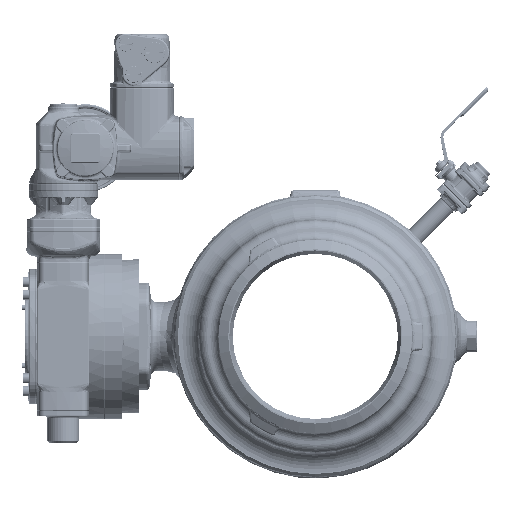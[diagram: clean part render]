
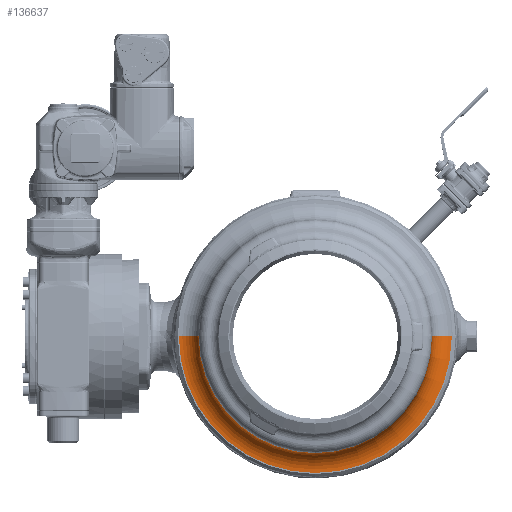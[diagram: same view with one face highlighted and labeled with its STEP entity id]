
A CAD part, left-side view. The second image highlights one B-rep face of the part: STEP entity #136637.
In plain terms, the highlighted toroidal (fillet/blend) face has major radius 248 mm and minor radius 36 mm.
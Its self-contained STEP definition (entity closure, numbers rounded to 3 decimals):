
#31918=CARTESIAN_POINT('',(-135.5,0.,0.));
#31919=DIRECTION('',(1.,0.,0.));
#31920=DIRECTION('',(0.,0.,-1.));
#31921=AXIS2_PLACEMENT_3D('',#31918,#31919,#31920);
#31928=CARTESIAN_POINT('',(-171.5,0.,-248.));
#31929=DIRECTION('',(0.,1.,0.));
#31930=DIRECTION('',(0.,0.,1.));
#31931=AXIS2_PLACEMENT_3D('',#31928,#31929,#31930);
#31938=CARTESIAN_POINT('',(-171.5,0.,0.));
#31939=DIRECTION('',(1.,0.,0.));
#31940=DIRECTION('',(0.,0.,-1.));
#31941=AXIS2_PLACEMENT_3D('',#31938,#31939,#31940);
#32649=CARTESIAN_POINT('',(-171.5,0.,248.));
#32650=DIRECTION('',(0.,-1.,0.));
#32651=DIRECTION('',(0.,0.,-1.));
#32652=AXIS2_PLACEMENT_3D('',#32649,#32650,#32651);
#66971=CARTESIAN_POINT('',(-171.5,0.,-212.));
#66972=CARTESIAN_POINT('',(-171.5,0.,212.));
#66973=VERTEX_POINT('',#66971);
#66974=VERTEX_POINT('',#66972);
#66975=CARTESIAN_POINT('',(-135.5,0.,-248.));
#66976=CARTESIAN_POINT('',(-135.5,0.,248.));
#66977=VERTEX_POINT('',#66975);
#66978=VERTEX_POINT('',#66976);
#136623=CARTESIAN_POINT('',(-171.5,0.,0.));
#136624=DIRECTION('',(-1.,0.,0.));
#136625=DIRECTION('',(0.,0.,-1.));
#136626=AXIS2_PLACEMENT_3D('',#136623,#136624,#136625);
#136627=TOROIDAL_SURFACE('',#136626,248.,36.);
#136629=ORIENTED_EDGE('',*,*,#136628,.F.);
#136631=ORIENTED_EDGE('',*,*,#136630,.T.);
#136632=ORIENTED_EDGE('',*,*,#136616,.T.);
#136634=ORIENTED_EDGE('',*,*,#136633,.F.);
#136635=EDGE_LOOP('',(#136629,#136631,#136632,#136634));
#136636=FACE_OUTER_BOUND('',#136635,.F.);
#136637=ADVANCED_FACE('',(#136636),#136627,.F.);
#31922=CIRCLE('',#31921,248.);
#31932=CIRCLE('',#31931,36.);
#31942=CIRCLE('',#31941,212.);
#32653=CIRCLE('',#32652,36.);
#136616=EDGE_CURVE('',#66977,#66978,#31922,.T.);
#136628=EDGE_CURVE('',#66973,#66974,#31942,.T.);
#136630=EDGE_CURVE('',#66973,#66977,#31932,.T.);
#136633=EDGE_CURVE('',#66974,#66978,#32653,.T.);
